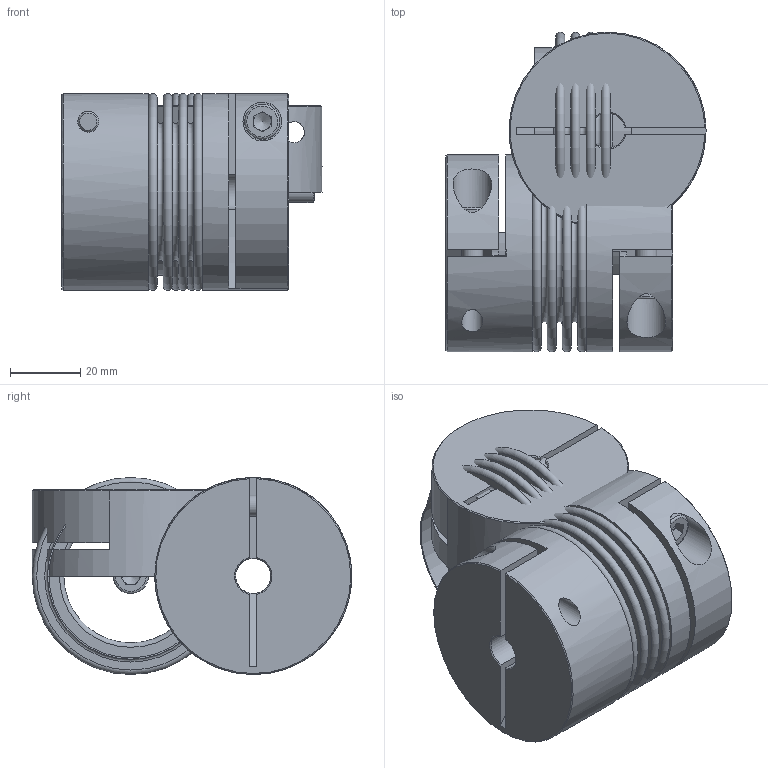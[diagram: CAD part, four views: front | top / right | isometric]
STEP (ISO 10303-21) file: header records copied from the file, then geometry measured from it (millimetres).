
FILE_DESCRIPTION( ( 'Unknown' ), '1' );
FILE_NAME( 'C:/Dokumente und Einstellungen/Sven/Desktop/cad - homepage/KB4/KB4-30-65.stp', 'Unknown', ( 'Unknown' ), ( 'Unknown' ), 'XStep 1.0', 'Unknown', ' ' );
FILE_SCHEMA( ( 'automotive_design' ) );
Length unit declared in the file: millimetre
Products named in the file (4): Assem1; KN30_Standard; Socket Head Cap Screw_DIN_DIN 912 M6 x 20 --- 20N; BK30_Standard
Bounding box: 73.92 x 90.83 x 55.99 mm (x, y, z)
Volume: 172239.6 mm3; surface area: 91588.8 mm2
Topology: 8 solids, 8 shells, 208 faces, 439 edges, 282 vertices
Faces by surface type: plane 114, cylinder 41, torus 38, cone 15
Full cylindrical faces by diameter (mm): 6 x6, 6.4 x3, 10 x6, 11 x3, 46.5 x4, 47.3 x4, 56 x3
Entity records: 2448 total; most frequent: CARTESIAN_POINT 474, DIRECTION 361, ORIENTED_EDGE 250, AXIS2_PLACEMENT_3D 159, EDGE_LOOP 136, EDGE_CURVE 125, FACE_OUTER_BOUND 109, VERTEX_POINT 100
